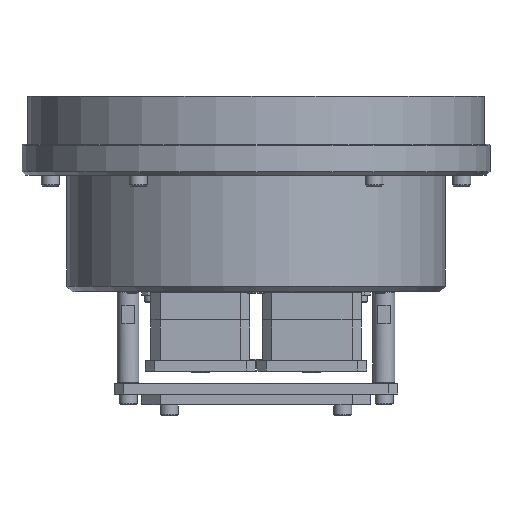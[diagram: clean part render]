
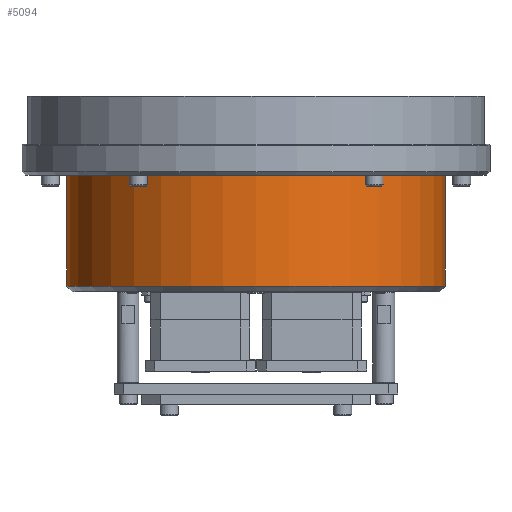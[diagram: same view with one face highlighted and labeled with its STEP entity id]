
A CAD part, left-side view. The second image highlights one B-rep face of the part: STEP entity #5094.
In plain terms, the highlighted cylindrical face has radius 103.5 mm (diameter 207 mm), a partial arc.
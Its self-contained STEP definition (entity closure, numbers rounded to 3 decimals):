
#5094=ADVANCED_FACE('',(#10583),#10584,.T.);
#10583=FACE_OUTER_BOUND('',#18785,.T.);
#10584=CYLINDRICAL_SURFACE('',#18786,103.5);
#18785=EDGE_LOOP('',(#26736,#26737,#26738,#26739));
#18786=AXIS2_PLACEMENT_3D('',#26740,#26741,#26742);
#26736=ORIENTED_EDGE('',*,*,#43268,.F.);
#26737=ORIENTED_EDGE('',*,*,#43269,.T.);
#26738=ORIENTED_EDGE('',*,*,#43270,.T.);
#26739=ORIENTED_EDGE('',*,*,#43271,.T.);
#26740=CARTESIAN_POINT('',(0.0,0.0,-63.5));
#26741=DIRECTION('',(0.0,0.0,1.0));
#26742=DIRECTION('',(-1.0,0.0,0.0));
#43268=EDGE_CURVE('',#49380,#49381,#49382,.T.);
#43269=EDGE_CURVE('',#49380,#49383,#49384,.F.);
#43270=EDGE_CURVE('',#49383,#49385,#49386,.T.);
#43271=EDGE_CURVE('',#49385,#49381,#49387,.T.);
#49380=VERTEX_POINT('',#58344);
#49381=VERTEX_POINT('',#58345);
#49382=LINE('',#58346,#58347);
#49383=VERTEX_POINT('',#58348);
#49384=CIRCLE('',#58349,103.5);
#49385=VERTEX_POINT('',#58350);
#49386=LINE('',#58351,#58352);
#49387=CIRCLE('',#58353,103.5);
#58344=CARTESIAN_POINT('',(0.0,103.5,-60.5));
#58345=CARTESIAN_POINT('',(0.0,103.5,0.2));
#58346=CARTESIAN_POINT('',(0.0,103.5,-63.5));
#58347=VECTOR('',#70826,1.0);
#58348=CARTESIAN_POINT('',(0.0,-103.5,-60.5));
#58349=AXIS2_PLACEMENT_3D('',#70827,#70828,#70829);
#58350=CARTESIAN_POINT('',(0.0,-103.5,0.2));
#58351=CARTESIAN_POINT('',(0.0,-103.5,-63.5));
#58352=VECTOR('',#70830,1.0);
#58353=AXIS2_PLACEMENT_3D('',#70831,#70832,#70833);
#70826=DIRECTION('',(0.0,0.0,1.0));
#70827=CARTESIAN_POINT('',(0.0,0.0,-60.5));
#70828=DIRECTION('',(0.0,0.0,-1.0));
#70829=DIRECTION('',(-1.0,0.0,0.0));
#70830=DIRECTION('',(0.0,0.0,1.0));
#70831=CARTESIAN_POINT('',(0.0,0.0,0.2));
#70832=DIRECTION('',(0.0,0.0,-1.0));
#70833=DIRECTION('',(1.0,0.0,0.0));
